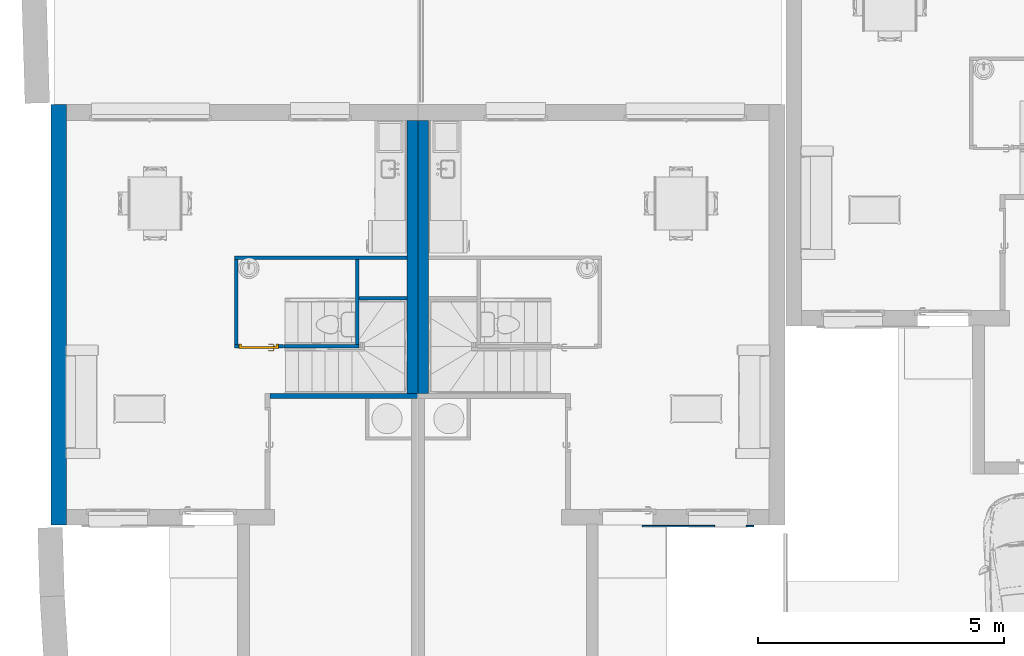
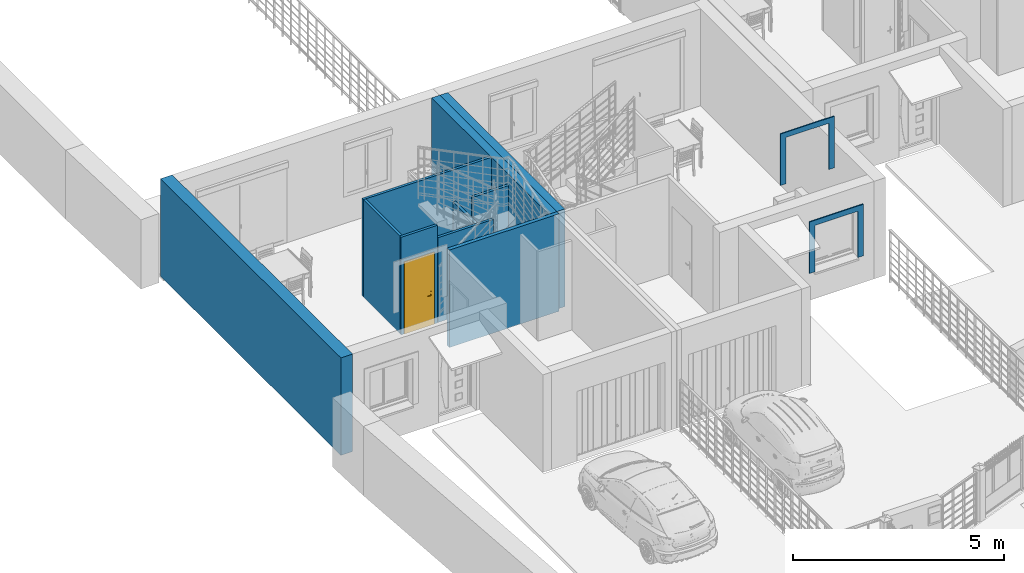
# One storey, part 9 of 33: 12 walls, 1 door, 3 openings.
"""IFC2X3 building model written with IfcOpenShell, lengths in metres."""

import ifcopenshell
import ifcopenshell.guid

model = None  # the IFC model being written
_history = None  # IfcOwnerHistory: only IFC2X3 demands one
_inside = {}  # id of a spatial element -> (the spatial element, [elements in it])
_under = {}  # id of a project, library or spatial element -> (it, [spatial elements below it])
_declared = {}  # id of a project -> (the project, [libraries it declares])
_typed = {}  # id of a type object -> (the type object, [elements of that type])
_made_of = {}  # id of a material, layer set ... -> (it, [elements and type objects made of it])


def new_model(schema):
    """Start an empty IFC model of exactly this schema.

    Asked for "IFC4X3", IfcOpenShell would pick the latest addendum, in which some entities
    have other attributes; the version numbers below select the first issue.
    IFC2X3 requires an IfcOwnerHistory on every rooted entity: one is made here for all.
    """
    global model, _history
    if schema == "IFC4X3":
        model = ifcopenshell.file(schema_version=(4, 3, 0, 0))
    else:
        model = ifcopenshell.file(schema=schema)
    _inside.clear()
    _under.clear()
    _declared.clear()
    _typed.clear()
    _made_of.clear()
    _history = None
    if model.schema == "IFC2X3":
        org = make("IfcOrganization", Name="unknown")
        user = make(
            "IfcPersonAndOrganization",
            ThePerson=make("IfcPerson", FamilyName="unknown"),
            TheOrganization=org,
        )
        app = make(
            "IfcApplication",
            ApplicationDeveloper=org,
            Version="unknown",
            ApplicationFullName="unknown",
            ApplicationIdentifier="unknown",
        )
        _history = make(
            "IfcOwnerHistory",
            OwningUser=user,
            OwningApplication=app,
            ChangeAction="ADDED",
            CreationDate=0,
        )
    return model


def make(cls, **values):
    """One entity of the class cls with the attributes given. An attribute that is None is left unset."""
    return model.create_entity(
        cls, **{name: value for name, value in values.items() if value is not None}
    )


def entity(cls, *values):
    """Any entity or typed value of the class cls, its attributes in the order of the schema. None: left unset."""
    e = model.create_entity(cls)
    for i, value in enumerate(values):
        if value is not None:
            e[i] = value
    return e


def rooted(cls, **values):
    """An entity with a GlobalId (a new one), such as an element, a storey or a relation."""
    return make(cls, GlobalId=ifcopenshell.guid.new(), OwnerHistory=_history, **values)


def si_unit(unit_type, name, prefix=None):
    """IfcSIUnit, for example si_unit("LENGTHUNIT", "METRE", prefix="MILLI")."""
    return make("IfcSIUnit", UnitType=unit_type, Prefix=prefix, Name=name)


def converted_unit(unit_type, name, factor, base, dimensions=None, offset=None):
    """IfcConversionBasedUnit, such as the inch: factor (a typed value) times the base unit."""
    return make(
        "IfcConversionBasedUnit"
        if offset is None
        else "IfcConversionBasedUnitWithOffset",
        ConversionOffset=offset,
        Dimensions=None
        if dimensions is None
        else entity("IfcDimensionalExponents", *dimensions),
        UnitType=unit_type,
        Name=name,
        ConversionFactor=make(
            "IfcMeasureWithUnit", ValueComponent=factor, UnitComponent=base
        ),
    )


def derived_unit(unit_type, elements):
    """IfcDerivedUnit: a product of units, each with its exponent."""
    return make(
        "IfcDerivedUnit",
        Elements=[
            make("IfcDerivedUnitElement", Unit=unit, Exponent=power)
            for unit, power in elements
        ],
        UnitType=unit_type,
    )


def assignment(units):
    """IfcUnitAssignment: the units of a project."""
    return None if units is None else make("IfcUnitAssignment", Units=units)


def point(xyz):
    """IfcCartesianPoint."""
    return None if xyz is None else make("IfcCartesianPoint", Coordinates=xyz)


def direction(xyz):
    """IfcDirection."""
    return None if xyz is None else make("IfcDirection", DirectionRatios=xyz)


def frame(location, z_axis=None, x_axis=None):
    """IfcAxis2Placement3D, a coordinate frame: its origin and axes. An axis left out is left unset."""
    return make(
        "IfcAxis2Placement3D",
        Location=point(location),
        Axis=direction(z_axis),
        RefDirection=direction(x_axis),
    )


def frame_2d(location, x_axis=None):
    """IfcAxis2Placement2D, a coordinate frame in the plane: its origin and x axis."""
    return make(
        "IfcAxis2Placement2D", Location=point(location), RefDirection=direction(x_axis)
    )


def origin():
    """The frame at (0, 0, 0) with its axes left unset."""
    return frame((0.0, 0.0, 0.0))


def place(relative_to, where):
    """IfcLocalPlacement: puts the frame where relative to a parent placement (None: the world)."""
    return make(
        "IfcLocalPlacement", PlacementRelTo=relative_to, RelativePlacement=where
    )


def context(
    kind, dimensions, precision=None, world=None, true_north=None, identifier=None
):
    """IfcGeometricRepresentationContext, for example the 3D "Model" context."""
    return make(
        "IfcGeometricRepresentationContext",
        ContextIdentifier=identifier,
        ContextType=kind,
        CoordinateSpaceDimension=dimensions,
        Precision=precision,
        WorldCoordinateSystem=world,
        TrueNorth=true_north,
    )


def subcontext(parent, identifier, kind, view, scale=None):
    """IfcGeometricRepresentationSubContext, for example "Body" below "Model"."""
    return make(
        "IfcGeometricRepresentationSubContext",
        ContextIdentifier=identifier,
        ContextType=kind,
        ParentContext=parent,
        TargetScale=scale,
        TargetView=view,
    )


def project(units=None, contexts=None):
    """IfcProject with its units and contexts."""
    return rooted(
        "IfcProject",
        Name="project",
        RepresentationContexts=contexts,
        UnitsInContext=assignment(units),
    )


def spatial(cls, under=None, at=None, **own):
    """A site, building, storey or space (cls), placed at a placement, below another one or the project."""
    s = rooted(cls, ObjectPlacement=at, **own)
    if under is not None:
        _under.setdefault(under.id(), (under, []))[1].append(s)
    return s


def profile(cls, at=None, kind="AREA", **sizes):
    """A parametric profile (cls). Its sizes go by their IFC names, for example OverallWidth=200.0."""
    return make(cls, ProfileType=kind, Position=at, **sizes)


def rectangle(**sizes):
    """IfcRectangleProfileDef."""
    return profile("IfcRectangleProfileDef", **sizes)


def extrude(swept, where, along, depth):
    """IfcExtrudedAreaSolid: the profile swept, set in the frame where, extruded along a direction by depth."""
    return make(
        "IfcExtrudedAreaSolid",
        SweptArea=swept,
        Position=where,
        ExtrudedDirection=direction(along),
        Depth=depth,
    )


def clip(a, b, op="DIFFERENCE"):
    """IfcBooleanClippingResult: the solid a cut by the half space b."""
    return make(
        "IfcBooleanClippingResult", Operator=op, FirstOperand=a, SecondOperand=b
    )


def halfspace(plane, agree):
    """IfcHalfSpaceSolid: all space on one side of the plane z = 0 of the frame plane."""
    return make(
        "IfcHalfSpaceSolid",
        BaseSurface=make("IfcPlane", Position=plane),
        AgreementFlag=agree,
    )


def faces_of(points, faces, orient=None, outer=None):
    """IfcFace entities. A face is a list of loops; a loop is a list of indices into points, from 0.

    orient and outer hold one flag for each loop. By default every Orientation is true, the
    first loop of a face is its IfcFaceOuterBound and the others are IfcFaceBound.
    """
    made = []
    for i, loops in enumerate(faces):
        bounds = []
        for j, loop in enumerate(loops):
            is_outer = j == 0 if outer is None else outer[i][j]
            bounds.append(
                make(
                    "IfcFaceOuterBound" if is_outer else "IfcFaceBound",
                    Bound=make("IfcPolyLoop", Polygon=[points[k] for k in loop]),
                    Orientation=True if orient is None else orient[i][j],
                )
            )
        made.append(make("IfcFace", Bounds=bounds))
    return made


def faceted_brep(points, faces, orient=None, outer=None, voids=None):
    """IfcFacetedBrep: a solid bounded by flat faces; with voids (closed shells), ...WithVoids."""
    shared = [point(p) for p in points]
    hull = make("IfcClosedShell", CfsFaces=faces_of(shared, faces, orient, outer))
    if voids is None:
        return make("IfcFacetedBrep", Outer=hull)
    return make(
        "IfcFacetedBrepWithVoids",
        Outer=hull,
        Voids=[
            make(cls, CfsFaces=faces_of(shared, fs, o, b)) for cls, fs, o, b in voids
        ],
    )


def shape(context_of_items, identifier, shape_type, items):
    """IfcShapeRepresentation: the items that make up one representation, for example the "Body"."""
    return make(
        "IfcShapeRepresentation",
        ContextOfItems=context_of_items,
        RepresentationIdentifier=identifier,
        RepresentationType=shape_type,
        Items=items,
    )


def source(mapping_origin, context_of_items, identifier, shape_type, items):
    """IfcRepresentationMap: a shape defined once, which mapped items show again and again."""
    return make(
        "IfcRepresentationMap",
        MappingOrigin=mapping_origin,
        MappedRepresentation=shape(context_of_items, identifier, shape_type, items),
    )


def transform(
    local_origin,
    x_axis=None,
    y_axis=None,
    z_axis=None,
    scale=None,
    scale2=None,
    scale3=None,
    uniform=True,
):
    """IfcCartesianTransformationOperator3D, or its non-uniform kind. x_axis, y_axis, z_axis: its Axis1, 2, 3."""
    if uniform:
        return make(
            "IfcCartesianTransformationOperator3D",
            Axis1=direction(x_axis),
            Axis2=direction(y_axis),
            LocalOrigin=point(local_origin),
            Scale=scale,
            Axis3=direction(z_axis),
        )
    return make(
        "IfcCartesianTransformationOperator3DnonUniform",
        Axis1=direction(x_axis),
        Axis2=direction(y_axis),
        LocalOrigin=point(local_origin),
        Scale=scale,
        Axis3=direction(z_axis),
        Scale2=scale2,
        Scale3=scale3,
    )


def mapped(mapping_source, mapping_target):
    """IfcMappedItem: shows the shape of a source again, moved by a transform."""
    return make(
        "IfcMappedItem", MappingSource=mapping_source, MappingTarget=mapping_target
    )


def material(Name=None, Category=None):
    """IfcMaterial."""
    return make("IfcMaterial", Name=Name, Category=Category)


def material_list(materials):
    """IfcMaterialList."""
    return make("IfcMaterialList", Materials=materials)


def layer(
    of_material, thickness, ventilated=None, Name=None, Category=None, Priority=None
):
    """IfcMaterialLayer: one layer of a wall or slab, of a material (None: an air gap)."""
    return make(
        "IfcMaterialLayer",
        Material=of_material,
        LayerThickness=thickness,
        IsVentilated=ventilated,
        Name=Name,
        Category=Category,
        Priority=Priority,
    )


def layer_set(layers, Name=None):
    """IfcMaterialLayerSet."""
    return make("IfcMaterialLayerSet", MaterialLayers=layers, LayerSetName=Name)


def layer_usage(for_layer_set, set_direction, sense, offset, extent=None):
    """IfcMaterialLayerSetUsage: how a layer set lies in its element."""
    return make(
        "IfcMaterialLayerSetUsage",
        ForLayerSet=for_layer_set,
        LayerSetDirection=set_direction,
        DirectionSense=sense,
        OffsetFromReferenceLine=offset,
        ReferenceExtent=extent,
    )


def made_of(thing, what):
    """Note that an element or type object is made of a material, layer set ...; save() writes the relation."""
    if what is not None:
        _made_of.setdefault(what.id(), (what, []))[1].append(thing)
    return thing


def type_object(cls, material=None, **own):
    """A type object (cls), such as IfcWallType, which elements share."""
    return made_of(rooted(cls, **own), material)


def type_shapes(of_type, sources):
    """Give a type object the sources (RepresentationMaps) that its elements show as mapped items."""
    of_type.RepresentationMaps = sources


def element(
    cls,
    number,
    at=None,
    inside=None,
    cuts=None,
    type_object=None,
    material=None,
    context=None,
    identifier="Body",
    shape_type=None,
    held_by="IfcProductDefinitionShape",
    body=None,
    shapes=None,
    **own,
):
    """One element of the class cls, such as IfcWall. Its Tag is "e" and its number.

    at: its placement. inside: the storey or other place that contains it. cuts: it is an
    opening in that element (IfcRelVoidsElement). A single representation is given by context,
    identifier, shape_type and body (its items); several are given by shapes. held_by: the class
    of the entity that holds the representations. save() writes the other relations.
    """
    e = rooted(cls, Tag="e%d" % number, ObjectPlacement=at, **own)
    if body is not None:
        shapes = [shape(context, identifier, shape_type, body)]
    if shapes is not None:
        e.Representation = make(held_by, Representations=shapes)
    if inside is not None:
        _inside.setdefault(inside.id(), (inside, []))[1].append(e)
    if cuts is not None:
        rooted(
            "IfcRelVoidsElement", RelatingBuildingElement=cuts, RelatedOpeningElement=e
        )
    if type_object is not None:
        _typed.setdefault(type_object.id(), (type_object, []))[1].append(e)
    return made_of(e, material)


def fill(opening, filler):
    """IfcRelFillsElement: the door or window that sits in an opening."""
    return rooted(
        "IfcRelFillsElement",
        RelatingOpeningElement=opening,
        RelatedBuildingElement=filler,
    )


def aggregate(whole, parts):
    """IfcRelAggregates: a whole, such as a stair, and the parts it consists of."""
    return rooted("IfcRelAggregates", RelatingObject=whole, RelatedObjects=parts)


def save(model, path):
    """Write the relations noted so far, then the file.

    IfcRelAggregates (storeys below a building ...), IfcRelContainedInSpatialStructure (elements
    in a storey), IfcRelDefinesByType, IfcRelAssociatesMaterial and IfcRelDeclares: one each for
    every whole, place, type object, material and project.
    """
    for whole, parts in _under.values():
        aggregate(whole, parts)
    for where, things in _inside.values():
        rooted(
            "IfcRelContainedInSpatialStructure",
            RelatedElements=things,
            RelatingStructure=where,
        )
    for kind, things in _typed.values():
        rooted("IfcRelDefinesByType", RelatedObjects=things, RelatingType=kind)
    for what, things in _made_of.values():
        rooted("IfcRelAssociatesMaterial", RelatedObjects=things, RelatingMaterial=what)
    for by, libraries in _declared.values():
        rooted("IfcRelDeclares", RelatingContext=by, RelatedDefinitions=libraries)
    model.write(path)


model = new_model("IFC2X3")

# Units and contexts
model_context = context("Model", 3, precision=1e-05, world=origin(), true_north=direction((6.12303176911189e-17, 1.0)))
context_of_model = context(None, 3, precision=1e-05, world=origin(), true_north=direction((6.12303176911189e-17, 1.0)))
body_context = subcontext(model_context, "Body", "Model", "MODEL_VIEW")
ifc_project = project(units=[si_unit("LENGTHUNIT", "METRE"), si_unit("AREAUNIT", "SQUARE_METRE"), si_unit("VOLUMEUNIT", "CUBIC_METRE"), converted_unit("PLANEANGLEUNIT", "DEGREE", entity("IfcRatioMeasure", 0.0174532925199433), si_unit("PLANEANGLEUNIT", "RADIAN"), dimensions=[0, 0, 0, 0, 0, 0, 0]), si_unit("MASSUNIT", "GRAM", prefix="KILO"), si_unit("TIMEUNIT", "SECOND"), si_unit("FREQUENCYUNIT", "HERTZ"), si_unit("THERMODYNAMICTEMPERATUREUNIT", "DEGREE_CELSIUS"), derived_unit("THERMALTRANSMITTANCEUNIT", [(si_unit("MASSUNIT", "GRAM", prefix="KILO"), 1), (si_unit("THERMODYNAMICTEMPERATUREUNIT", "KELVIN"), -1), (si_unit("TIMEUNIT", "SECOND"), -3)]), derived_unit("VOLUMETRICFLOWRATEUNIT", [(si_unit("LENGTHUNIT", "METRE"), 3), (si_unit("TIMEUNIT", "SECOND"), -1)]), si_unit("ELECTRICCURRENTUNIT", "AMPERE"), si_unit("ELECTRICVOLTAGEUNIT", "VOLT"), si_unit("POWERUNIT", "WATT"), si_unit("FORCEUNIT", "NEWTON", prefix="KILO"), si_unit("ILLUMINANCEUNIT", "LUX"), si_unit("LUMINOUSFLUXUNIT", "LUMEN"), si_unit("LUMINOUSINTENSITYUNIT", "CANDELA"), si_unit("PRESSUREUNIT", "PASCAL")], contexts=[model_context, context_of_model])

# Site, building, storey
site_placement = place(None, origin())
site = spatial("IfcSite", under=ifc_project, at=site_placement, Name="Surface", CompositionType="ELEMENT")
building_placement = place(site_placement, origin())
building = spatial("IfcBuilding", under=site, at=building_placement, CompositionType="ELEMENT")
storey_placement = place(building_placement, origin())
storey = spatial("IfcBuildingStorey", under=building, at=storey_placement, Name="Plan des fondations  Maisons 1 et 2", CompositionType="ELEMENT", Elevation=0.0)

# Walls
ifc_material_1 = material(Name="Enduit blanc cassé2")
ifc_layer_1 = layer(ifc_material_1, 0.02)
ifc_material_2 = material(Name="Parpaing")
ifc_layer_2 = layer(ifc_material_2, 0.2)
ifc_material_3 = material(Name="Isolant")
ifc_layer_3 = layer(ifc_material_3, 0.1)
ifc_layer_set_1 = layer_set([ifc_layer_1, ifc_layer_2, ifc_layer_3], Name="Mur de base:Ext. Parpaing 20 + Isolant 10 enduit blanc cassé")
ifc_layer_usage_1 = layer_usage(ifc_layer_set_1, "AXIS2", "NEGATIVE", 0.16)
wall_type_1 = type_object("IfcWallType", Name="Mur de base:Ext. Parpaing 20 + Isolant 10 enduit blanc cassé", PredefinedType="STANDARD", material=ifc_layer_set_1)
wall_1_placement = place(storey_placement, frame((61.5463634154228, 79.8877566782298, 0.0), z_axis=(0.0, 0.0, 1.0), x_axis=(0.0, 1.0, 0.0)))
element("IfcWallStandardCase", 1, at=wall_1_placement, inside=storey, type_object=wall_type_1, material=ifc_layer_usage_1, Name="Mur de base:Ext. Parpaing 20 + Isolant 10 enduit blanc cassé", ObjectType="Mur de base:Ext. Parpaing 20 + Isolant 10 enduit blanc cassé", context=body_context, shape_type="SweptSolid", body=[
    extrude(rectangle(XDim=8.54, YDim=0.319999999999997, at=frame_2d((4.27, 1.23512311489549e-15), x_axis=(-1.0, 0.0))), origin(), (0.0, 0.0, 1.0), 2.82),
])
ifc_layer_4 = layer(ifc_material_1, 0.02)
ifc_layer_5 = layer(ifc_material_2, 0.1)
ifc_layer_6 = layer(ifc_material_3, 0.1)
ifc_layer_set_2 = layer_set([ifc_layer_4, ifc_layer_5, ifc_layer_6], Name="Mur de base:Ext. Parpaing 10 + Isolant 10 enduit blanc cassé")
ifc_layer_usage_2 = layer_usage(ifc_layer_set_2, "AXIS2", "POSITIVE", -0.11)
wall_type_2 = type_object("IfcWallType", Name="Mur de base:Ext. Parpaing 10 + Isolant 10 enduit blanc cassé", PredefinedType="STANDARD", material=ifc_layer_set_2)
wall_2_placement = place(storey_placement, frame((68.9446263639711, 88.1077566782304, 0.0), z_axis=(0.0, 0.0, 1.0), x_axis=(0.0, -1.0, 0.0)))
element("IfcWallStandardCase", 2, at=wall_2_placement, inside=storey, type_object=wall_type_2, material=ifc_layer_usage_2, Name="Mur de base:Ext. Parpaing 10 + Isolant 10 enduit blanc cassé", ObjectType="Mur de base:Ext. Parpaing 10 + Isolant 10 enduit blanc cassé", context=body_context, shape_type="SweptSolid", body=[
    extrude(rectangle(XDim=5.55000000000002, YDim=0.220000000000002, at=frame_2d((2.77500000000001, 0.0), x_axis=(-1.0, 0.0))), origin(), (0.0, 0.0, 1.0), 2.82),
])
ifc_layer_usage_3 = layer_usage(ifc_layer_set_2, "AXIS2", "NEGATIVE", 0.11)
wall_3_placement = place(storey_placement, frame((68.7246263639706, 88.1077566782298, 0.0), z_axis=(0.0, 0.0, 1.0), x_axis=(0.0, -1.0, 0.0)))
element("IfcWallStandardCase", 3, at=wall_3_placement, inside=storey, type_object=wall_type_2, material=ifc_layer_usage_3, Name="Mur de base:Ext. Parpaing 10 + Isolant 10 enduit blanc cassé", ObjectType="Mur de base:Ext. Parpaing 10 + Isolant 10 enduit blanc cassé", context=body_context, shape_type="SweptSolid", body=[
    extrude(rectangle(XDim=5.55000000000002, YDim=0.220000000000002, at=frame_2d((2.77500000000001, -9.5062846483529e-16), x_axis=(-1.0, 0.0))), origin(), (0.0, 0.0, 1.0), 2.82),
])
ifc_material_4 = material(Name="Peinture - Blanc")
ifc_layer_7 = layer(ifc_material_4, 0.1)
ifc_layer_set_3 = layer_set([ifc_layer_7], Name="Mur de base:Int.  Platre 100 mm en blanc 2")
ifc_layer_usage_4 = layer_usage(ifc_layer_set_3, "AXIS2", "POSITIVE", -0.05)
wall_type_3 = type_object("IfcWallType", Name="Mur de base:Int.  Platre 100 mm en blanc 2", PredefinedType="STANDARD", material=ifc_layer_set_3)
wall_4_placement = place(storey_placement, frame((65.8346263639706, 82.5077566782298, 0.0)))
element("IfcWallStandardCase", 4, at=wall_4_placement, inside=storey, type_object=wall_type_3, material=ifc_layer_usage_4, Name="Mur de base:Int.  Platre 100 mm en blanc 2", ObjectType="Mur de base:Int.  Platre 100 mm en blanc 2", context=body_context, shape_type="SweptSolid", body=[
    extrude(rectangle(XDim=2.99500000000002, YDim=0.100000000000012, at=frame_2d((1.49750000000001, -1.196959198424e-15), x_axis=(-1.0, 0.0))), origin(), (0.0, 0.0, 1.0), 2.82),
])
ifc_layer_8 = layer(ifc_material_4, 0.07)
ifc_layer_set_4 = layer_set([ifc_layer_8], Name="Mur de base:Int.  Platre 70 mm en blanc")
ifc_layer_usage_5 = layer_usage(ifc_layer_set_4, "AXIS2", "POSITIVE", -0.035)
wall_type_4 = type_object("IfcWallType", Name="Mur de base:Int.  Platre 70 mm en blanc", PredefinedType="STANDARD", material=ifc_layer_set_4)
wall_5_placement = place(storey_placement, frame((68.6146263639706, 85.3127566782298, 0.0), z_axis=(0.0, 0.0, 1.0), x_axis=(-1.0, 0.0, 0.0)))
element("IfcWallStandardCase", 5, at=wall_5_placement, inside=storey, type_object=wall_type_4, material=ifc_layer_usage_5, Name="Mur de base:Int.  Platre 70 mm en blanc", ObjectType="Mur de base:Int.  Platre 70 mm en blanc", context=body_context, shape_type="SweptSolid", body=[
    extrude(rectangle(XDim=3.50211659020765, YDim=0.0699999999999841, at=frame_2d((1.75105829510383, -3.61169427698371e-15), x_axis=(-1.0, 0.0))), origin(), (0.0, 0.0, 1.0), 2.82),
])
ifc_layer_usage_6 = layer_usage(ifc_layer_set_4, "AXIS2", "POSITIVE", -0.035)
wall_6_placement = place(storey_placement, frame((65.147509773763, 83.5546279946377, 0.0), z_axis=(0.0, 0.0, 1.0), x_axis=(0.0, 1.0, 0.0)))
element("IfcWallStandardCase", 6, at=wall_6_placement, inside=storey, type_object=wall_type_4, material=ifc_layer_usage_6, Name="Mur de base:Int.  Platre 70 mm en blanc", ObjectType="Mur de base:Int.  Platre 70 mm en blanc", context=body_context, shape_type="SweptSolid", body=[
    extrude(rectangle(XDim=1.72312868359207, YDim=0.0700000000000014, at=frame_2d((0.861564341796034, -1.3392065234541e-15), x_axis=(-1.0, 0.0))), origin(), (0.0, 0.0, 1.0), 2.82),
])
ifc_layer_usage_7 = layer_usage(ifc_layer_set_4, "AXIS2", "POSITIVE", -0.035)
wall_7_placement = place(storey_placement, frame((67.6346263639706, 83.5227566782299, 0.0), z_axis=(0.0, 0.0, 1.0), x_axis=(-1.0, 0.0, 0.0)))
element("IfcWallStandardCase", 7, at=wall_7_placement, inside=storey, type_object=wall_type_4, material=ifc_layer_usage_7, Name="Mur de base:Int.  Platre 70 mm en blanc", ObjectType="Mur de base:Int.  Platre 70 mm en blanc", context=body_context, shape_type="SweptSolid", body=[
    extrude(rectangle(XDim=1.52171659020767, YDim=0.0699999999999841, at=frame_2d((0.760858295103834, 5.20417042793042e-17), x_axis=(-1.0, 0.0))), origin(), (0.0, 0.0, 1.0), 2.45350535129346),
])
ifc_layer_usage_8 = layer_usage(ifc_layer_set_4, "AXIS2", "POSITIVE", -0.035)
wall_8_placement = place(storey_placement, frame((67.5996263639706, 83.5577566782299, 0.0), z_axis=(0.0, 0.0, 1.0), x_axis=(0.0, 1.0, 0.0)))
element("IfcWallStandardCase", 8, at=wall_8_placement, inside=storey, type_object=wall_type_4, material=ifc_layer_usage_8, Name="Mur de base:Int.  Platre 70 mm en blanc", ObjectType="Mur de base:Int.  Platre 70 mm en blanc", context=body_context, shape_type="SweptSolid", body=[
    extrude(rectangle(XDim=1.71999999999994, YDim=0.0700000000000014, at=frame_2d((0.859999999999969, -1.32879818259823e-15), x_axis=(-1.0, 0.0))), origin(), (0.0, 0.0, 1.0), 1.9),
])

# Wall, opening, door
ifc_layer_usage_9 = layer_usage(ifc_layer_set_4, "AXIS2", "POSITIVE", -0.035)
wall_9_placement = place(storey_placement, frame((66.102909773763, 83.5196279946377, 0.0), z_axis=(0.0, 0.0, 1.0), x_axis=(-1.0, 0.0, 0.0)))
wall_9 = element("IfcWallStandardCase", 9, at=wall_9_placement, inside=storey, type_object=wall_type_4, material=ifc_layer_usage_9, Name="Mur de base:Int.  Platre 70 mm en blanc", ObjectType="Mur de base:Int.  Platre 70 mm en blanc", context=body_context, shape_type="SweptSolid", body=[
    extrude(rectangle(XDim=0.990400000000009, YDim=0.0699999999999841, at=frame_2d((0.495200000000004, -5.69336244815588e-15), x_axis=(-1.0, 0.0))), origin(), (0.0, 0.0, 1.0), 2.82),
])
opening_1_placement = place(wall_9_placement, frame((0.100399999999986, -0.0350000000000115, 0.0)))
opening_1 = element("IfcOpeningElement", 10, at=opening_1_placement, cuts=wall_9, Name="FR_Simple (R):73 x 204 - (70):1", ObjectType="Opening", context=body_context, shape_type="SweptSolid", body=[
    extrude(rectangle(XDim=2.075, YDim=0.799999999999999, at=frame_2d((1.0375, 0.4), x_axis=(1.0, 0.0))), frame((0.0, 0.0, 0.0), z_axis=(0.0, 1.0, 0.0), x_axis=(0.0, 0.0, 1.0)), (0.0, 0.0, 1.0), 0.07),
])
ifc_material_5 = material(Name="Poignée Porte")
ifc_material_6 = material(Name="Dormants Portes")
ifc_material_7 = material(Name="Panneaux Portes")
ifc_material_list_1 = material_list([ifc_material_5, ifc_material_6, ifc_material_7])
ifc_material_list_2 = material_list([ifc_material_5, ifc_material_6, ifc_material_7])
door_style = type_object("IfcDoorStyle", Name="73 x 204 - (70)", ConstructionType="NOTDEFINED", OperationType="SINGLE_SWING_RIGHT", ParameterTakesPrecedence=False, Sizeable=False, material=ifc_material_list_2)
shared_shape = source(origin(), body_context, "Body", "Brep", [
    faceted_brep([(0.710000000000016, -0.0130000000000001, 0.764641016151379), (0.720352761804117, -0.0130000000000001, 0.766003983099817), (0.730000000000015, -0.0130000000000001, 0.770000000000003), (0.730000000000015, -0.0130000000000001, 0.980000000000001), (0.720352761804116, -0.0130000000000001, 0.983996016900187), (0.710000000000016, -0.0130000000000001, 0.985358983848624), (0.699647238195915, -0.0130000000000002, 0.983996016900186), (0.690000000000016, -0.0130000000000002, 0.980000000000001), (0.690000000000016, -0.0130000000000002, 0.770000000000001), (0.699647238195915, -0.0130000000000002, 0.766003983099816), (0.730000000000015, -0.00800000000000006, 0.980000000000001), (0.730000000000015, -0.00800000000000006, 0.770000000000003), (0.720352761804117, -0.00800000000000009, 0.766003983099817), (0.710000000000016, -0.00800000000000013, 0.764641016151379), (0.699647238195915, -0.00800000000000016, 0.766003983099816), (0.690000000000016, -0.00800000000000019, 0.770000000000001), (0.690000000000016, -0.00800000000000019, 0.980000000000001), (0.699647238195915, -0.00800000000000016, 0.983996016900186), (0.710000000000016, -0.00800000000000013, 0.985358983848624), (0.720352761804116, -0.00800000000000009, 0.983996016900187)], [[[0, 1, 2, 3, 4, 5, 6, 7, 8, 9]], [[10, 11, 12, 13, 14, 15, 16, 17, 18, 19]], [[1, 12, 11, 2]], [[0, 13, 12, 1]], [[9, 14, 13, 0]], [[9, 8, 15, 14]], [[15, 8, 7, 16]], [[6, 17, 16, 7]], [[5, 18, 17, 6]], [[4, 19, 18, 5]], [[4, 3, 10, 19]], [[10, 3, 2, 11]]]),
    faceted_brep([(0.730000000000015, 0.0319999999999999, 0.770000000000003), (0.730000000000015, 0.0319999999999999, 0.980000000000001), (0.720352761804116, 0.0319999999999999, 0.983996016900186), (0.710000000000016, 0.0319999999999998, 0.985358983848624), (0.699647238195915, 0.0319999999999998, 0.983996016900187), (0.690000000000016, 0.0319999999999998, 0.980000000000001), (0.690000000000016, 0.0319999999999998, 0.770000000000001), (0.699647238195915, 0.0319999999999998, 0.766003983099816), (0.710000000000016, 0.0319999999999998, 0.764641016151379), (0.720352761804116, 0.0319999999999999, 0.766003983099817), (0.710000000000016, 0.0369999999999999, 0.985358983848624), (0.720352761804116, 0.0369999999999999, 0.983996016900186), (0.730000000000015, 0.0369999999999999, 0.980000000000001), (0.730000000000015, 0.0369999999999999, 0.770000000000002), (0.720352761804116, 0.0369999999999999, 0.766003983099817), (0.710000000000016, 0.0369999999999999, 0.764641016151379), (0.699647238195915, 0.0369999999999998, 0.766003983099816), (0.690000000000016, 0.0369999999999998, 0.770000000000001), (0.690000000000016, 0.0369999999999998, 0.980000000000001), (0.699647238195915, 0.0369999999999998, 0.983996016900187)], [[[0, 1, 2, 3, 4, 5, 6, 7, 8, 9]], [[10, 11, 12, 13, 14, 15, 16, 17, 18, 19]], [[4, 19, 18, 5]], [[3, 10, 19, 4]], [[2, 11, 10, 3]], [[2, 1, 12, 11]], [[12, 1, 0, 13]], [[9, 14, 13, 0]], [[8, 15, 14, 9]], [[7, 16, 15, 8]], [[7, 6, 17, 16]], [[17, 6, 5, 18]]]),
    faceted_brep([(0.707974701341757, -0.0130000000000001, 0.907780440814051), (0.712025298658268, -0.0130000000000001, 0.907780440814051), (0.716000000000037, -0.0130000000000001, 0.906999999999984), (0.716000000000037, -0.0130000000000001, 0.892999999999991), (0.712025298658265, -0.0130000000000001, 0.892219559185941), (0.707974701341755, -0.0130000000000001, 0.89221955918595), (0.703999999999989, -0.0130000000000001, 0.893000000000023), (0.703999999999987, -0.0130000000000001, 0.90699999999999), (0.712025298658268, -0.0390045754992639, 0.907780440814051), (0.716000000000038, -0.0406509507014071, 0.906999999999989), (0.707974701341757, -0.0373267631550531, 0.907780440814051), (0.694298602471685, -0.0510028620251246, 0.907780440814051), (0.695976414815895, -0.0550534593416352, 0.907780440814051), (0.609142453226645, -0.0550534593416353, 0.90778044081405), (0.610820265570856, -0.0510028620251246, 0.90778044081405), (0.604342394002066, -0.0445249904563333, 0.90778044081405), (0.601478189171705, -0.0473891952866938, 0.90778044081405), (0.703999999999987, -0.0356803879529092, 0.90699999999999), (0.703999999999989, -0.0356803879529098, 0.893000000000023), (0.707974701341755, -0.0373267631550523, 0.89221955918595), (0.712025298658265, -0.0390045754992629, 0.89221955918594), (0.695976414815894, -0.0550534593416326, 0.89221955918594), (0.694298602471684, -0.0510028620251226, 0.89221955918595), (0.610820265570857, -0.0510028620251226, 0.89221955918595), (0.609142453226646, -0.0550534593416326, 0.89221955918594), (0.601478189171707, -0.0473891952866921, 0.89221955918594), (0.604342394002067, -0.044524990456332, 0.89221955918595), (0.716000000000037, -0.0406509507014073, 0.892999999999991), (0.69762279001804, -0.059028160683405, 0.906999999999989), (0.692652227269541, -0.0470281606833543, 0.90699999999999), (0.692652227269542, -0.0470281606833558, 0.893000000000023), (0.697622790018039, -0.0590281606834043, 0.892999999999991), (0.65255943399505, -0.053182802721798, 0.907878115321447), (0.657692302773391, -0.0590281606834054, 0.906999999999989), (0.607496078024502, -0.0590281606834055, 0.906999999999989), (0.652559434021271, -0.0470281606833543, 0.90699999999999), (0.612466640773, -0.0470281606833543, 0.906999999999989), (0.652559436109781, -0.0470281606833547, 0.893000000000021), (0.612466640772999, -0.0470281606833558, 0.893000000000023), (0.652559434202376, -0.0531828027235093, 0.892121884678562), (0.647426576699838, -0.0590281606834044, 0.892999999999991), (0.607496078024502, -0.0590281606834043, 0.892999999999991), (0.607152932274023, -0.0417144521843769, 0.89300000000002), (0.598667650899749, -0.0501997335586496, 0.892999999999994), (0.598667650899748, -0.0501997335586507, 0.906999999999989), (0.607152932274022, -0.0417144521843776, 0.906999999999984)], [[[0, 1, 2, 3, 4, 5, 6, 7]], [[2, 1, 8, 9]], [[1, 0, 10, 11, 12, 8]], [[13, 14, 15, 16]], [[0, 7, 17, 10]], [[18, 17, 7, 6]], [[5, 19, 18, 6]], [[5, 4, 20, 21, 22, 19]], [[23, 24, 25, 26]], [[3, 27, 20, 4]], [[9, 27, 3, 2]], [[9, 8, 12, 28]], [[10, 17, 29, 11]], [[30, 29, 17, 18]], [[18, 19, 22, 30]], [[20, 27, 31, 21]], [[28, 31, 27, 9]], [[12, 32, 33]], [[13, 33, 32]], [[33, 28, 12]], [[33, 13, 34]], [[11, 35, 32]], [[32, 12, 11]], [[32, 35, 14]], [[35, 11, 29]], [[36, 14, 35]], [[13, 32, 14]], [[30, 37, 38, 36, 35, 29]], [[39, 37, 22]], [[40, 41, 24]], [[40, 21, 31]], [[39, 21, 40]], [[23, 37, 39]], [[39, 24, 23]], [[30, 22, 37]], [[37, 23, 38]], [[21, 39, 22]], [[24, 39, 40]], [[31, 28, 33, 34, 41, 40]], [[42, 26, 25, 43, 44, 16, 15, 45]], [[13, 16, 44, 34]], [[36, 45, 15, 14]], [[42, 45, 36, 38]], [[38, 23, 26, 42]], [[24, 41, 43, 25]], [[44, 43, 41, 34]]]),
    faceted_brep([(0.712025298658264, 0.0369999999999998, 0.907780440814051), (0.707974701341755, 0.0369999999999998, 0.907780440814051), (0.703999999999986, 0.0369999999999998, 0.90699999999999), (0.703999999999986, 0.0369999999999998, 0.89300000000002), (0.707974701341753, 0.0369999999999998, 0.892219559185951), (0.712025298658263, 0.0369999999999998, 0.892219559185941), (0.716000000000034, 0.0369999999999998, 0.892999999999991), (0.716000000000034, 0.0369999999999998, 0.90699999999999), (0.703999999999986, 0.0594852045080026, 0.90699999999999), (0.703999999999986, 0.0594852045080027, 0.89300000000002), (0.707974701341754, 0.0611315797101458, 0.907780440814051), (0.712025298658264, 0.0628093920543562, 0.907780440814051), (0.695838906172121, 0.0789957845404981, 0.907780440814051), (0.69416109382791, 0.0749451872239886, 0.907780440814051), (0.610793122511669, 0.0749451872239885, 0.907780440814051), (0.609115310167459, 0.0789957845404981, 0.907780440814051), (0.601451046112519, 0.071331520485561, 0.907780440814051), (0.604315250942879, 0.0684673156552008, 0.907780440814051), (0.716000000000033, 0.0644557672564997, 0.90699999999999), (0.716000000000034, 0.0644557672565, 0.892999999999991), (0.712025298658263, 0.0628093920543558, 0.892219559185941), (0.707974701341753, 0.0611315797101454, 0.892219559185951), (0.69416109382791, 0.0749451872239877, 0.892219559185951), (0.69583890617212, 0.0789957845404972, 0.892219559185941), (0.609115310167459, 0.0789957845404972, 0.89221955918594), (0.610793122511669, 0.0749451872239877, 0.89221955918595), (0.60431525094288, 0.0684673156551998, 0.89221955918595), (0.60145104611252, 0.07133152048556, 0.89221955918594), (0.692514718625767, 0.07097048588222, 0.89300000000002), (0.692514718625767, 0.0709704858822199, 0.90699999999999), (0.697485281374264, 0.0829704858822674, 0.90699999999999), (0.697485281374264, 0.082970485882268, 0.892999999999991), (0.652477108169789, 0.0709704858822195, 0.90699999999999), (0.612439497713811, 0.0709704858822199, 0.90699999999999), (0.612439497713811, 0.0709704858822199, 0.89300000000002), (0.652477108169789, 0.0709704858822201, 0.89300000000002), (0.652477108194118, 0.0771249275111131, 0.907878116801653), (0.647399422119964, 0.0829704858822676, 0.90699999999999), (0.607468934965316, 0.0829704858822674, 0.90699999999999), (0.657554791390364, 0.0829704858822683, 0.892999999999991), (0.607468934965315, 0.082970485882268, 0.892999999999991), (0.65247710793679, 0.0771249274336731, 0.892121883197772), (0.598640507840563, 0.0741420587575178, 0.90699999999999), (0.598640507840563, 0.074142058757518, 0.892999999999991), (0.607125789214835, 0.0656567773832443, 0.89300000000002), (0.607125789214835, 0.0656567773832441, 0.90699999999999)], [[[0, 1, 2, 3, 4, 5, 6, 7]], [[8, 9, 3, 2]], [[1, 10, 8, 2]], [[1, 0, 11, 12, 13, 10]], [[14, 15, 16, 17]], [[7, 18, 11, 0]], [[18, 7, 6, 19]], [[6, 5, 20, 19]], [[5, 4, 21, 22, 23, 20]], [[24, 25, 26, 27]], [[4, 3, 9, 21]], [[28, 9, 8, 29]], [[8, 10, 13, 29]], [[18, 30, 12, 11]], [[31, 30, 18, 19]], [[19, 20, 23, 31]], [[21, 9, 28, 22]], [[28, 29, 32, 33, 34, 35]], [[36, 32, 13]], [[37, 38, 15]], [[37, 12, 30]], [[36, 12, 37]], [[14, 32, 36]], [[36, 15, 14]], [[29, 13, 32]], [[32, 14, 33]], [[12, 36, 13]], [[15, 36, 37]], [[30, 31, 39, 40, 38, 37]], [[23, 41, 39]], [[24, 39, 41]], [[39, 31, 23]], [[39, 24, 40]], [[22, 35, 41]], [[41, 23, 22]], [[41, 35, 25]], [[35, 22, 28]], [[34, 25, 35]], [[24, 41, 25]], [[17, 16, 42, 43, 27, 26, 44, 45]], [[44, 34, 33, 45]], [[33, 14, 17, 45]], [[15, 38, 42, 16]], [[42, 38, 40, 43]], [[24, 27, 43, 40]], [[34, 44, 26, 25]]]),
    faceted_brep([(0.800000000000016, 0.0, 0.0), (0.810000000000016, 0.0, 0.0), (0.810000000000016, -0.00799999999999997, 0.0), (0.765000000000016, -0.00799999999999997, 0.0), (0.765000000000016, 0.032, 0.0), (0.750000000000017, 0.032, 0.0), (0.750000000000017, 0.0780000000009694, 0.0), (0.810000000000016, 0.0780000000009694, 0.0), (0.810000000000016, 0.0700000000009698, 0.0), (0.800000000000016, 0.0700000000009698, 0.0), (0.800000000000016, 0.0700000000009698, 2.075), (0.800000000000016, 0.0, 2.075), (0.810000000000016, 0.0700000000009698, 2.085), (-0.00999999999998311, 0.0700000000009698, 2.085), (-0.00999999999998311, 0.0700000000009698, 0.0), (0.0, 0.0700000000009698, 0.0), (0.0, 0.0700000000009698, 2.075), (0.810000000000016, 0.0780000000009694, 2.085), (0.750000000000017, 0.0780000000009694, 2.025), (0.0500000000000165, 0.0780000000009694, 2.025), (0.0500000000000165, 0.0780000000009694, 0.0), (-0.00999999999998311, 0.0780000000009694, 0.0), (-0.00999999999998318, 0.0780000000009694, 2.085), (0.750000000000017, 0.032, 2.025), (0.765000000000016, 0.032, 2.04), (0.0350000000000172, 0.032, 2.04), (0.0350000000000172, 0.032, 0.0), (0.0500000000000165, 0.032, 0.0), (0.0500000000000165, 0.032, 2.025), (0.765000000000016, -0.00799999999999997, 2.04), (0.810000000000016, -0.00799999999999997, 2.085), (-0.00999999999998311, -0.00799999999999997, 2.085), (-0.00999999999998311, -0.00799999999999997, 0.0), (0.0350000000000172, -0.00799999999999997, 0.0), (0.0350000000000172, -0.00799999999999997, 2.04), (0.810000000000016, 0.0, 2.085), (0.0, 0.0, 2.075), (0.0, 0.0, 0.0), (-0.00999999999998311, 0.0, 0.0), (-0.00999999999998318, 0.0, 2.085)], [[[0, 1, 2, 3, 4, 5, 6, 7, 8, 9]], [[9, 10, 11, 0]], [[8, 12, 13, 14, 15, 16, 10, 9]], [[7, 17, 12, 8]], [[6, 18, 19, 20, 21, 22, 17, 7]], [[5, 23, 18, 6]], [[4, 24, 25, 26, 27, 28, 23, 5]], [[3, 29, 24, 4]], [[2, 30, 31, 32, 33, 34, 29, 3]], [[1, 35, 30, 2]], [[0, 11, 36, 37, 38, 39, 35, 1]], [[10, 16, 36, 11]], [[17, 22, 13, 12]], [[23, 28, 19, 18]], [[29, 34, 25, 24]], [[35, 39, 31, 30]], [[37, 15, 14, 21, 20, 27, 26, 33, 32, 38]], [[16, 15, 37, 36]], [[22, 21, 14, 13]], [[28, 27, 20, 19]], [[34, 33, 26, 25]], [[39, 38, 32, 31]]]),
    faceted_brep([(0.765000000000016, -0.00799999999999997, 2.04), (0.0350000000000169, -0.00799999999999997, 2.04), (0.0350000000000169, -0.00799999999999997, 0.0), (0.765000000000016, -0.00799999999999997, 0.0), (0.765000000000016, 0.032, 2.04), (0.765000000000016, 0.032, 0.0), (0.0350000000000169, 0.032, 0.0), (0.0350000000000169, 0.032, 2.04)], [[[0, 1, 2, 3]], [[4, 5, 6, 7]], [[3, 5, 4, 0]], [[2, 6, 5, 3]], [[1, 7, 6, 2]], [[0, 4, 7, 1]]]),
])
type_shapes(door_style, [shared_shape])
door_placement = place(opening_1_placement, frame((0.800000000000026, 0.0700000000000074, 0.0), z_axis=(0.0, 0.0, 1.0), x_axis=(-1.0, 0.0, 0.0)))
door = element("IfcDoor", 11, at=door_placement, inside=storey, type_object=door_style, material=ifc_material_list_1, Name="FR_Simple (R):73 x 204 - (70)", ObjectType="73 x 204 - (70)", OverallHeight=2.075, OverallWidth=0.8, context=body_context, shape_type="MappedRepresentation", body=[
    mapped(shared_shape, transform((0.0, 0.0, 0.0), scale=1.0)),
])
fill(opening_1, door)

# Wall
ifc_layer_usage_10 = layer_usage(ifc_layer_set_4, "AXIS2", "POSITIVE", -0.035)
wall_10_placement = place(storey_placement, frame((67.6346263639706, 84.4948372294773, 0.0)))
element("IfcWallStandardCase", 12, at=wall_10_placement, inside=storey, type_object=wall_type_4, material=ifc_layer_usage_10, Name="Mur de base:Int.  Platre 70 mm en blanc", ObjectType="Mur de base:Int.  Platre 70 mm en blanc", context=body_context, shape_type="SweptSolid", body=[
    extrude(rectangle(XDim=0.980000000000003, YDim=0.0699999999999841, at=frame_2d((0.490000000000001, -3.22658566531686e-15), x_axis=(-1.0, 0.0))), origin(), (0.0, 0.0, 1.0), 2.5),
])

# Wall, opening
ifc_material_8 = material(Name="Enduit blanc cassé")
ifc_layer_9 = layer(ifc_material_8, 0.01)
ifc_layer_10 = layer(ifc_material_2, 0.01)
ifc_layer_11 = layer(ifc_material_8, 0.01)
ifc_layer_set_5 = layer_set([ifc_layer_9, ifc_layer_10, ifc_layer_11], Name="Mur de base:modénateurs ep 2 cm gris")
ifc_layer_usage_11 = layer_usage(ifc_layer_set_5, "AXIS2", "NEGATIVE", 0.015)
wall_type_5 = type_object("IfcWallType", Name="Mur de base:modénateurs ep 2 cm gris", PredefinedType="STANDARD", material=ifc_layer_set_5)
wall_11_placement = place(storey_placement, frame((74.1778893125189, 79.8677566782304, 0.799999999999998)))
wall_11 = element("IfcWallStandardCase", 13, at=wall_11_placement, inside=storey, type_object=wall_type_5, material=ifc_layer_usage_11, Name="Mur de base:modénateurs ep 2 cm gris", ObjectType="Mur de base:modénateurs ep 2 cm gris", context=body_context, shape_type="SweptSolid", body=[
    extrude(rectangle(XDim=1.47499999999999, YDim=0.0299999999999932, at=frame_2d((0.737499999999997, 0.0), x_axis=(-1.0, 0.0))), origin(), (0.0, 0.0, 1.0), 1.48912543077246),
])
opening_2_placement = place(wall_11_placement, origin())
element("IfcOpeningElement", 14, at=opening_2_placement, cuts=wall_11, Name="Mur de base:modénateurs ep 2 cm gris", ObjectType="Opening", context=body_context, shape_type="SweptSolid", body=[
    extrude(rectangle(XDim=1.33912543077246, YDim=1.17499999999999, at=frame_2d((0.0, 0.0), x_axis=(0.0, 1.0))), frame((0.737499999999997, 0.0149999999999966, 0.669562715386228), z_axis=(0.0, -1.0, 0.0), x_axis=(1.0, 0.0, 0.0)), (0.0, 0.0, 1.0), 0.03),
])

ifc_layer_usage_12 = layer_usage(ifc_layer_set_5, "AXIS2", "NEGATIVE", 0.015)
wall_12_placement = place(storey_placement, frame((73.3844726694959, 79.8677566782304, 3.62087456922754)))
wall_12 = element("IfcWallStandardCase", 15, at=wall_12_placement, inside=storey, type_object=wall_type_5, material=ifc_layer_usage_12, Name="Mur de base:modénateurs ep 2 cm gris", ObjectType="Mur de base:modénateurs ep 2 cm gris", context=body_context, shape_type="Clipping", body=[
    clip(extrude(rectangle(XDim=1.47499999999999, YDim=0.0299999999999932, at=frame_2d((0.737499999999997, 0.0), x_axis=(-1.0, 0.0))), origin(), (0.0, 0.0, 1.0), 1.48912543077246), halfspace(frame((1.47499999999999, -0.0149999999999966, 0.0), z_axis=(0.0, 0.0, -1.0), x_axis=(0.0, 1.0, 0.0)), False)),
])
opening_3_placement = place(wall_12_placement, origin())
element("IfcOpeningElement", 16, at=opening_3_placement, cuts=wall_12, Name="Mur de base:modénateurs ep 2 cm gris", ObjectType="Opening", context=body_context, shape_type="SweptSolid", body=[
    extrude(rectangle(XDim=1.33912543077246, YDim=1.17499999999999, at=frame_2d((0.0, 2.77555756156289e-16), x_axis=(0.0, 1.0))), frame((0.737499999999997, 0.0149999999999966, 0.669562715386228), z_axis=(0.0, -1.0, 0.0), x_axis=(1.0, 0.0, 0.0)), (0.0, 0.0, 1.0), 0.03),
])

save(model, "model.ifc")
